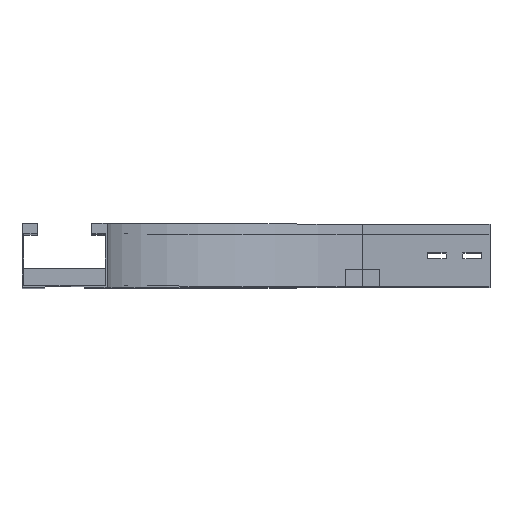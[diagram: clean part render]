
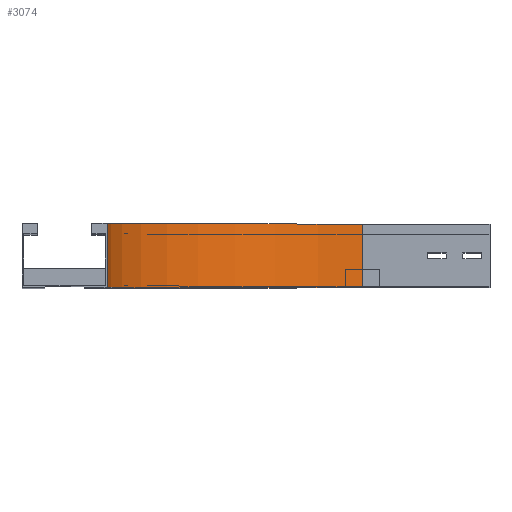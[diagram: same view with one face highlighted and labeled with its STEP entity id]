
A CAD part, top view. The second image highlights one B-rep face of the part: STEP entity #3074.
In plain terms, the highlighted cylindrical face has radius 300 mm (diameter 600 mm), a partial arc.
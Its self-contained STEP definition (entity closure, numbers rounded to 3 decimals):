
#34 = VERTEX_POINT ( 'NONE', #3423 ) ;
#253 = EDGE_CURVE ( 'NONE', #945, #34, #2367, .T. ) ;
#285 = CARTESIAN_POINT ( 'NONE',  ( 300., 0., -150. ) ) ;
#414 = CARTESIAN_POINT ( 'NONE',  ( 300., 75., -150. ) ) ;
#694 = AXIS2_PLACEMENT_3D ( 'NONE', #414, #1612, #3329 ) ;
#703 = VECTOR ( 'NONE', #2951, 1000. ) ;
#828 = ORIENTED_EDGE ( 'NONE', *, *, #1653, .F. ) ;
#892 = DIRECTION ( 'NONE',  ( 0., -1., 0. ) ) ;
#905 = CARTESIAN_POINT ( 'NONE',  ( 0., 0., -150. ) ) ;
#927 = AXIS2_PLACEMENT_3D ( 'NONE', #285, #1125, #2298 ) ;
#945 = VERTEX_POINT ( 'NONE', #1391 ) ;
#1105 = VERTEX_POINT ( 'NONE', #2680 ) ;
#1125 = DIRECTION ( 'NONE',  ( 0., -1., 0. ) ) ;
#1301 = CARTESIAN_POINT ( 'NONE',  ( 300., 75., -450. ) ) ;
#1391 = CARTESIAN_POINT ( 'NONE',  ( 0., 0., -150. ) ) ;
#1553 = EDGE_LOOP ( 'NONE', ( #828, #2805, #2056, #3049 ) ) ;
#1612 = DIRECTION ( 'NONE',  ( 0., -1., 0. ) ) ;
#1619 = LINE ( 'NONE', #2482, #2564 ) ;
#1653 = EDGE_CURVE ( 'NONE', #34, #3267, #3054, .T. ) ;
#1751 = DIRECTION ( 'NONE',  ( 0., 0., -1. ) ) ;
#2056 = ORIENTED_EDGE ( 'NONE', *, *, #3037, .T. ) ;
#2298 = DIRECTION ( 'NONE',  ( -1., 0., 0. ) ) ;
#2317 = CARTESIAN_POINT ( 'NONE',  ( 300., 0., -150. ) ) ;
#2337 = CYLINDRICAL_SURFACE ( 'NONE', #2914, 300. ) ;
#2359 = FACE_OUTER_BOUND ( 'NONE', #1553, .T. ) ;
#2367 = LINE ( 'NONE', #905, #703 ) ;
#2482 = CARTESIAN_POINT ( 'NONE',  ( 300., 0., -450. ) ) ;
#2564 = VECTOR ( 'NONE', #3632, 1000. ) ;
#2663 = EDGE_CURVE ( 'NONE', #1105, #3267, #1619, .T. ) ;
#2680 = CARTESIAN_POINT ( 'NONE',  ( 300., 0., -450. ) ) ;
#2805 = ORIENTED_EDGE ( 'NONE', *, *, #253, .F. ) ;
#2914 = AXIS2_PLACEMENT_3D ( 'NONE', #2317, #892, #1751 ) ;
#2951 = DIRECTION ( 'NONE',  ( 0., 1., 0. ) ) ;
#3037 = EDGE_CURVE ( 'NONE', #945, #1105, #3715, .T. ) ;
#3049 = ORIENTED_EDGE ( 'NONE', *, *, #2663, .T. ) ;
#3054 = CIRCLE ( 'NONE', #694, 300. ) ;
#3074 = ADVANCED_FACE ( 'NONE', ( #2359 ), #2337, .F. ) ;
#3267 = VERTEX_POINT ( 'NONE', #1301 ) ;
#3329 = DIRECTION ( 'NONE',  ( -1., 0., 0. ) ) ;
#3423 = CARTESIAN_POINT ( 'NONE',  ( 0., 75., -150. ) ) ;
#3632 = DIRECTION ( 'NONE',  ( 0., 1., 0. ) ) ;
#3715 = CIRCLE ( 'NONE', #927, 300. ) ;
